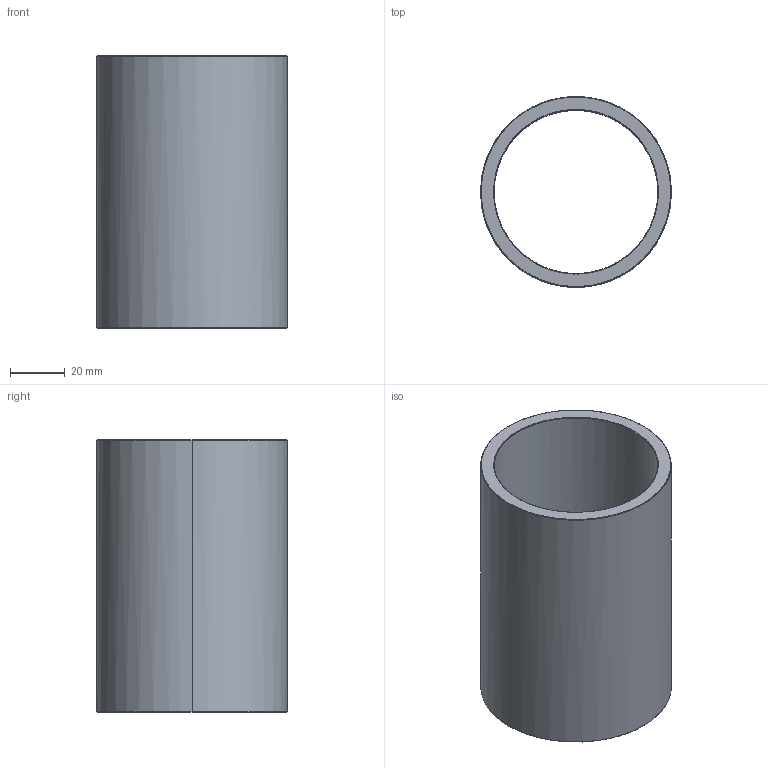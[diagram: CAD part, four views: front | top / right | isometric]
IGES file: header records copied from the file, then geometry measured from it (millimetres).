
Start section: Write IGES format                                    datakit 2008 (c)
Global section: file name: Unknown; native system: DATAKIT Converter; preprocessor: Unknown; author: Unknown; organization: Unknown; date: 950613.180003; units: millimetre
Bounding box: 70 x 69.95 x 100 mm (x, y, z)
Surface area: 42787 mm2 (no closed solid volume)
Topology: 0 solids, 0 shells, 14 faces, 56 edges, 56 vertices
Faces by surface type: revolution 12, bspline 2
